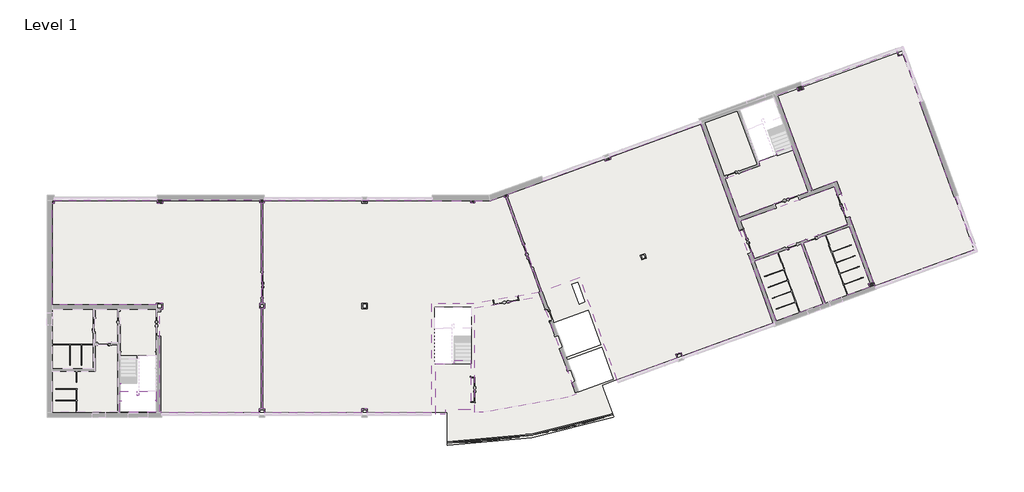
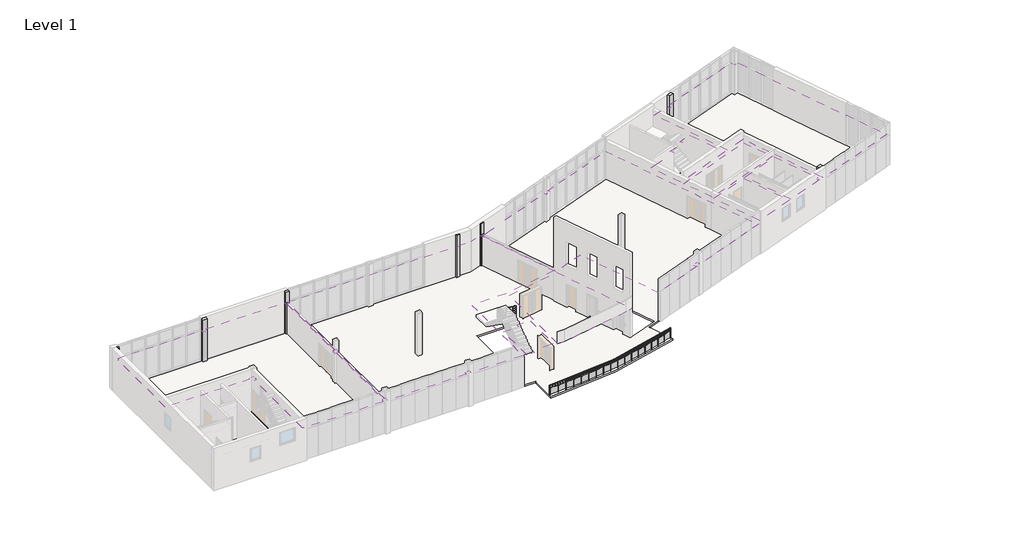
# One storey, part 7 of 12: 10 coverings, 7 columns, 3 proxies, 2 slabs, 1 railing.
"""IFC4 building model written with IfcOpenShell, lengths in millimetres."""

from ifc_helpers import new_model, si_unit, point, frame, frame_2d, origin, place, context, project, spatial, polyline, circle_curve, ellipse_curve, trimmed, segment, composite_curve, outline, extrude, faceted_brep, transform, mapped, element, save
from ifc_brep_helpers import plane_surface, cylinder_surface, revolved_surface, advanced_brep
from components import support_metal_circular1_support_metal_circular_016e83f0

model = new_model("IFC4")

# Units and contexts
model_context = context("Model", 3, world=origin())
ifc_project = project(units=[si_unit("LENGTHUNIT", "METRE", prefix="MILLI")], contexts=[model_context])

# Site, building, storey
site = spatial("IfcSite", under=ifc_project)
building = spatial("IfcBuilding", under=site)
storey = spatial("IfcBuildingStorey", under=building, Name="Level 1", Elevation=3900.0)

# Proxies
placement = place(None, origin())
support_metal_circular1_support_metal_circular_shape = support_metal_circular1_support_metal_circular_016e83f0(model_context)
element("IfcBuildingElementProxy", 1, Name="Support - Metal - Circular1 : Support - Metal - Circular", ObjectType="Support - Metal - Circular1 : Support - Metal - Circular", at=placement, inside=storey, context=model_context, shape_type="MappedRepresentation", body=[
    mapped(support_metal_circular1_support_metal_circular_shape, transform((5322.6000025, 2334.2312733, 6353.300689), x_axis=(0.0, 1.0, 0.0), y_axis=(-1.0, 0.0, 0.0), z_axis=(0.0, 0.0, 1.0))),
])
element("IfcBuildingElementProxy", 2, Name="Support - Metal - Circular1 : Support - Metal - Circular", ObjectType="Support - Metal - Circular1 : Support - Metal - Circular", at=placement, inside=storey, context=model_context, shape_type="MappedRepresentation", body=[
    mapped(support_metal_circular1_support_metal_circular_shape, transform((5322.6000025, 1100.0, 6732.1192282), x_axis=(0.0, 1.0, 0.0), y_axis=(-1.0, 0.0, 0.0), z_axis=(0.0, 0.0, 1.0))),
])
element("IfcBuildingElementProxy", 3, Name="Support - Metal - Circular1 : Support - Metal - Circular", ObjectType="Support - Metal - Circular1 : Support - Metal - Circular", at=placement, inside=storey, context=model_context, shape_type="MappedRepresentation", body=[
    mapped(support_metal_circular1_support_metal_circular_shape, transform((7761.8000024, 1150.0, 6732.1192282), x_axis=(0.0, -1.0, 0.0), y_axis=(1.0, 0.0, 0.0), z_axis=(0.0, 0.0, 1.0))),
])

# Columns
element("IfcColumn", 4, ObjectType="Columns_Rectangular : 300x300mm", at=placement, inside=storey, context=model_context, shape_type="SweptSolid", body=[
    extrude(outline(polyline([(562.2000028, 15173.2000005), (433.0000024, 15173.2000005), (433.0000025, 15351.4000013), (562.2000028, 15351.4000013), (562.2000028, 15173.2000005)])), frame((0.0, 0.0, 3900.0), z_axis=(0.0, 0.0, 1.0), x_axis=(1.0, 0.0, 0.0)), (0.0, 0.0, 1.0), 3900.0),
])
element("IfcColumn", 5, ObjectType="Columns_Rectangular : 300x300mm", at=placement, inside=storey, context=model_context, shape_type="Brep", body=[
    faceted_brep([(32610.0635714, 15583.1099494, 7800.0), (32891.9713576, 15685.7159924, 7800.0), (32844.7041738, 15815.5815126, 7800.0), (32562.7963876, 15712.9754696, 7800.0), (32844.7041738, 15815.5815126, 3900.0), (32891.9713576, 15685.7159924, 3900.0), (32807.3990217, 15654.9341795, 3900.0), (32694.6359072, 15613.8917623, 3900.0), (32610.0635714, 15583.1099494, 3900.0), (32562.7963876, 15712.9754696, 3900.0)], [[[0, 1, 2, 3]], [[4, 5, 6, 7, 8, 9]], [[8, 0, 3, 9]], [[1, 0, 8, 7, 6, 5]], [[1, 5, 4, 2]], [[3, 2, 4, 9]]]),
])
element("IfcColumn", 6, ObjectType="Columns_Rectangular : 300x300mm", at=placement, inside=storey, context=model_context, shape_type="SweptSolid", body=[
    extrude(outline(polyline([(30512.2000025, 15213.2000005), (30212.2000025, 15213.2000005), (30212.2000025, 15351.4000004), (30512.2000025, 15351.4000004), (30512.2000025, 15213.2000005)])), frame((0.0, 0.0, 3900.0), z_axis=(0.0, 0.0, 1.0), x_axis=(1.0, 0.0, 0.0)), (0.0, 0.0, 1.0), 3900.0),
])
element("IfcColumn", 7, ObjectType="Columns_Rectangular : 300x300mm", at=placement, inside=storey, context=model_context, shape_type="Brep", body=[
    faceted_brep([(15212.2000024, 15213.2000005, 7800.0), (15512.2000024, 15213.2000005, 7800.0), (15512.2000024, 15413.4000007, 7800.0), (15212.2000024, 15413.4000007, 7800.0), (15512.2000024, 15213.2000005, 3900.0), (15422.2000024, 15213.2000005, 3900.0), (15302.2000024, 15213.2000005, 3900.0), (15212.2000024, 15213.2000005, 3900.0), (15212.2000024, 15413.4000007, 3900.0), (15512.2000024, 15413.4000007, 3900.0)], [[[0, 1, 2, 3]], [[4, 5, 6, 7, 8, 9]], [[7, 0, 3, 8]], [[1, 0, 7, 6, 5, 4]], [[1, 4, 9, 2]], [[3, 2, 9, 8]]]),
])
element("IfcColumn", 8, ObjectType="Columns_Rectangular : 400x400mm", at=placement, inside=storey, context=model_context, shape_type="SweptSolid", body=[
    extrude(outline(polyline([(53911.2024396, 23282.8815641), (53535.3253912, 23146.0735068), (53441.3724579, 23404.2070696), (53817.2495062, 23541.015127), (53911.2024396, 23282.8815641)])), frame((0.0, 0.0, 3900.0), z_axis=(0.0, 0.0, 1.0), x_axis=(1.0, 0.0, 0.0)), (0.0, 0.0, 1.0), 3900.0),
])
element("IfcColumn", 9, ObjectType="Columns_Rectangular : 400x400mm", at=placement, inside=storey, context=model_context, shape_type="SweptSolid", body=[
    extrude(outline(polyline([(8287.2000028, 15163.2000005), (7887.2000028, 15163.2000005), (7887.2000028, 15413.4000008), (8287.2000028, 15413.4000008), (8287.2000028, 15163.2000005)])), frame((0.0, 0.0, 3900.0), z_axis=(0.0, 0.0, 1.0), x_axis=(1.0, 0.0, 0.0)), (0.0, 0.0, 1.0), 3900.0),
])
element("IfcColumn", 10, ObjectType="Columns_Rectangular : 400x400mm", at=placement, inside=storey, context=model_context, shape_type="Brep", body=[
    faceted_brep([(58904.6965317, 9563.3693005, 7800.0), (58528.8194834, 9426.5612432, 7800.0), (58614.3929232, 9191.4501495, 7800.0), (58990.2699716, 9328.2582068, 7800.0), (58614.3929232, 9191.4501495, 3900.0), (58528.8194834, 9426.5612432, 3900.0), (58646.2810605, 9469.3137609, 3900.0), (58881.2042157, 9554.8187967, 3900.0), (58904.6965317, 9563.3693005, 3900.0), (58990.2699716, 9328.2582068, 3900.0)], [[[0, 1, 2, 3]], [[4, 5, 6, 7, 8, 9]], [[1, 0, 8, 7, 6, 5]], [[1, 5, 4, 2]], [[8, 0, 3, 9]], [[3, 2, 4, 9]]]),
])

# Coverings
element("IfcCovering", 11, ObjectType="24\" x 24\"_Grid", at=placement, inside=storey, context=model_context, shape_type="SweptSolid", body=[
    extrude(outline(polyline([(15537.2000025, 7688.2000003), (15537.2000025, 8038.2000003), (15422.2000024, 8038.2000003), (15422.2000024, 15213.2000005), (15512.2000024, 15213.2000005), (15512.2000024, 15376.4000013), (27487.2000028, 15376.4000013), (27487.2000028, 15351.4000005), (30212.2000025, 15351.4000004), (30212.2000025, 15213.2000005), (30512.2000025, 15213.2000005), (30512.2000025, 15351.4000004), (31569.3759506, 15351.4000004), (32562.7963876, 15712.9754696), (32610.0635714, 15583.1099494), (32694.6359072, 15613.8917623), (35158.2741812, 8845.1012344), (30440.3278369, 8013.2000005), (27412.2000031, 8013.2000004), (27412.2000029, 269.9999995), (22862.2000028, 269.9999995), (22862.2000028, 538.199999), (22462.2000028, 538.199999), (22462.2000028, 269.9999995), (15562.2000028, 269.9999995), (15562.2000028, 538.199999), (15422.2000024, 538.199999), (15422.2000024, 7688.2000003), (15537.2000025, 7688.2000003)]), holes=[polyline([(22882.3447354, 7663.2000003), (22882.3447354, 8063.2000003), (22462.2000024, 8063.2000003), (22462.2000024, 7663.2000003), (22882.3447354, 7663.2000003)])]), frame((0.0, 0.0, 6700.0), z_axis=(0.0, 0.0, 1.0), x_axis=(1.0, 0.0, 0.0)), (0.0, 0.0, 1.0), 52.0),
])
element("IfcCovering", 12, ObjectType="24\" x 24\"_Grid", at=placement, inside=storey, context=model_context, shape_type="SweptSolid", body=[
    extrude(outline(polyline([(37985.6557273, 9877.5855238), (35269.9440535, 8889.1473098), (32807.3990217, 15654.9341795), (32891.9713576, 15685.7159924), (32844.7041738, 15815.5815126), (35405.3665657, 16747.5864031), (35396.8160621, 16771.0787187), (39742.8264311, 18352.8971307), (39807.2836461, 18176.0793824), (40183.2076743, 18312.9045389), (40118.8394836, 18489.7546895), (46579.1582494, 20841.1184239), (51752.691745, 6626.9519648), (45292.3729792, 4275.5882301), (45193.8027741, 4546.4076429), (44817.7897216, 4409.5500841), (44916.3599267, 4138.7306713), (40640.8265039, 2582.5637698), (37985.6557273, 9877.5855238)]), holes=[polyline([(42724.7984316, 11256.6346278), (42605.0913814, 11585.5270451), (42276.1989642, 11465.8199949), (42395.9060144, 11136.9275777), (42724.7984316, 11256.6346278)])]), frame((0.0, 0.0, 6500.0), z_axis=(0.0, 0.0, 1.0), x_axis=(1.0, 0.0, 0.0)), (0.0, 0.0, 1.0), 52.0),
])
element("IfcCovering", 13, ObjectType="24\" x 24\"_Grid", at=placement, inside=storey, context=model_context, shape_type="SweptSolid", body=[
    extrude(outline(polyline([(61005.9307492, 25756.8181916), (62237.203265, 22373.9247568), (62178.0026297, 22352.3774878), (64639.3163891, 15589.9735111), (64698.5170243, 15611.5207802), (66071.7278996, 11838.654908), (59011.8172406, 9269.0575717), (58904.6965317, 9563.3693005), (58881.2042157, 9554.8187967), (56272.4455729, 16722.3242618), (54519.3077353, 16084.2342724), (52040.6193527, 22894.3746339), (53441.3724579, 23404.2070696), (53535.3253912, 23146.0735068), (53911.2024396, 23282.8815641), (53817.0784962, 23541.4849732), (60535.8807344, 25986.9289976), (60664.8223283, 25632.6648797), (61005.9307492, 25756.8181916)])), frame((0.0, 0.0, 6700.0), z_axis=(0.0, 0.0, 1.0), x_axis=(1.0, 0.0, 0.0)), (0.0, 0.0, 1.0), 52.0),
])
element("IfcCovering", 14, ObjectType="24\" x 24\"_Grid", at=placement, inside=storey, context=model_context, shape_type="SweptSolid", body=[
    extrude(outline(polyline([(50396.1862368, 11231.0615383), (49421.3262224, 13909.4674153), (56093.1438296, 16337.8104326), (57068.003844, 13659.4045556), (50396.1862368, 11231.0615383)])), frame((0.0, 0.0, 6700.0), z_axis=(0.0, 0.0, 1.0), x_axis=(1.0, 0.0, 0.0)), (0.0, 0.0, 1.0), 52.0),
])
element("IfcCovering", 15, ObjectType="24\" x 24\"_Grid", at=placement, inside=storey, context=model_context, shape_type="SweptSolid", body=[
    extrude(outline(polyline([(28408.3766929, 146.0000008), (27712.2000028, 146.0000009), (27712.200003, 3763.2000006), (29052.2000029, 3763.2000006), (29052.2000029, 4013.2000006), (30212.2000024, 4013.2000006), (30212.2000023, 470.0000006), (28408.3766929, 470.0000006), (28408.3766929, 146.0000008)])), frame((0.0, 0.0, 6700.0), z_axis=(0.0, 0.0, 1.0), x_axis=(1.0, 0.0, 0.0)), (0.0, 0.0, 1.0), 52.0),
])
element("IfcCovering", 16, ObjectType="24\" x 24\"_Grid", at=placement, inside=storey, context=model_context, shape_type="SweptSolid", body=[
    extrude(outline(composite_curve([segment(polyline([(35172.4630874, 8542.9751379), (37714.7826146, 1558.0096457), (37139.232462, 1348.5265219)]), True, "CONTINUOUS"), segment(trimmed(circle_curve(frame_2d((30685.6603889, 20363.2000005)), 20080.0), [point((37139.232462, 1348.5265219))], [point((31124.6877547, 288.0000022))], False, "CARTESIAN"), True, "CONTINUOUS"), segment(polyline([(31124.6877547, 288.0000022), (30512.2000023, 288.0000022), (30512.2000024, 7721.2450188), (35172.4630874, 8542.9751379)]), True, "CONTINUOUS")], self_intersect=False)), frame((0.0, 0.0, 6700.0), z_axis=(0.0, 0.0, 1.0), x_axis=(1.0, 0.0, 0.0)), (0.0, 0.0, 1.0), 52.0),
])
element("IfcCovering", 17, ObjectType="24\" x 24\"_Grid", at=placement, inside=storey, context=model_context, shape_type="SweptSolid", body=[
    extrude(outline(polyline([(48319.963718, 16935.4360269), (50804.9943671, 17839.9132141), (50697.0762506, 18136.4158024), (52050.0788572, 18628.8684779), (51964.5738214, 18863.791633), (53045.2203355, 19257.1147979), (54237.3999491, 15981.6282294), (49318.7201794, 14191.3752015), (48319.963718, 16935.4360269)])), frame((0.0, 0.0, 6700.0), z_axis=(0.0, 0.0, 1.0), x_axis=(1.0, 0.0, 0.0)), (0.0, 0.0, 1.0), 52.0),
])
element("IfcCovering", 18, ObjectType="24\" x 24\"_Grid", at=placement, inside=storey, context=model_context, shape_type="SweptSolid", body=[
    extrude(outline(polyline([(15187.2000024, 8038.2000003), (15187.2000024, 7688.2000003), (15302.2000024, 7688.2000003), (15302.2000024, 538.199999), (15162.2000029, 538.199999), (15162.2000029, 269.9999995), (8187.2000027, 269.9999995), (8187.2000027, 313.0000002), (8087.2000022, 313.0000002), (8087.2000022, 7638.2000005), (8287.2000028, 7638.2000005), (8287.2000028, 8063.2000005), (7837.2000024, 8063.2000005), (7837.2000024, 7938.2000004), (433.0000002, 7938.2000004), (433.0000014, 15173.2000005), (562.2000028, 15173.2000005), (562.2000028, 15388.9000009), (7887.2000025, 15388.9000009), (7887.2000025, 15163.2000005), (8287.2000028, 15163.2000005), (8287.2000028, 15413.4000008), (15212.2000024, 15413.4000007), (15212.2000024, 15213.2000005), (15302.2000024, 15213.2000005), (15302.2000024, 8038.2000003), (15187.2000024, 8038.2000003)])), frame((0.0, 0.0, 6700.0), z_axis=(0.0, 0.0, 1.0), x_axis=(1.0, 0.0, 0.0)), (0.0, 0.0, 1.0), 52.0),
])
element("IfcCovering", 19, ObjectType="Plain", at=placement, inside=storey, context=model_context, shape_type="SweptSolid", body=[
    extrude(outline(polyline([(58646.2810605, 9469.3137609), (58528.8194834, 9426.5612432), (58614.3929232, 9191.4501495), (55449.5081762, 8039.5263068), (53888.7334543, 12327.7196125), (57171.0797785, 13522.3959729), (58646.2810605, 9469.3137609)])), frame((0.0, 0.0, 6700.0), z_axis=(0.0, 0.0, 1.0), x_axis=(1.0, 0.0, 0.0)), (0.0, 0.0, 1.0), 57.0),
])
element("IfcCovering", 20, ObjectType="Plain", at=placement, inside=storey, context=model_context, shape_type="SweptSolid", body=[
    extrude(outline(polyline([(55295.3985864, 7983.4350033), (51966.0676312, 6771.6576357), (50405.2929092, 11059.8509413), (53734.6238645, 12271.628309), (55295.3985864, 7983.4350033)])), frame((0.0, 0.0, 6700.0), z_axis=(0.0, 0.0, 1.0), x_axis=(1.0, 0.0, 0.0)), (0.0, 0.0, 1.0), 57.0),
])

# Railing
element("IfcRailing", 21, ObjectType="Glass_Panel-Bottom_Fill", at=placement, inside=storey, context=model_context, shape_type="SolidModel", body=[
    advanced_brep(
    [(40308.8689844, 181.3840931, 4800.0), (28548.6661194, -1809.3617636, 4800.0), (28549.739034, -1889.3545686, 4800.0), (40334.1834987, 105.4948622, 4800.0)],
    [
        (0, 1, circle_curve(frame((28028.1685328, 36997.1374158, 4800.0), z_axis=(0.0, 0.0, -1.0), x_axis=(0.013411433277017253, -0.9999100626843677, 0.0)), 38809.9896457)),
        (1, 2, ellipse_curve(frame((28549.2025767, -1849.3581661, 4800.0), z_axis=(0.9999100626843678, 0.013411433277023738, 0.0), x_axis=(0.013411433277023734, -0.9999100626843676, 0.0)), 40.0, 30.0)),
        (2, 3, circle_curve(frame((28028.1685328, 36997.1374158, 4800.0), z_axis=(0.0, 0.0, 1.0), x_axis=(0.013411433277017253, -0.9999100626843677, 0.0)), 38889.9896457)),
        (3, 0, ellipse_curve(frame((40321.5262416, 143.4394777, 4800.0), z_axis=(-0.9486153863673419, -0.3164314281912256, 0.0), x_axis=(0.3164314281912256, -0.9486153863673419, 0.0)), 40.0, 30.0)),
        (2, 1, ellipse_curve(frame((28549.2025767, -1849.3581661, 4800.0), z_axis=(0.9999100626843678, 0.013411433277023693, 0.0), x_axis=(0.013411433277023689, -0.9999100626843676, 0.0)), 40.0, 30.0)),
        (0, 3, ellipse_curve(frame((40321.5262416, 143.4394777, 4800.0), z_axis=(-0.9486153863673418, -0.31643142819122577, 0.0), x_axis=(0.31643142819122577, -0.9486153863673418, 0.0)), 40.0, 30.0)),
    ],
    [
        revolved_surface(trimmed(ellipse_curve(frame((28549.2025767, -1849.3581661, 4800.0), z_axis=(-0.9999100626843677, -0.013411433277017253, 0.0), x_axis=(0.013411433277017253, -0.9999100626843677, 0.0)), 40.0, 30.0), [point((28549.739034, -1889.3545686, 4800.0))], [point((28548.6661194, -1809.3617636, 4800.0))], True, "CARTESIAN"), (28028.1685328, 36997.1374158, 4800.0), (0.0, 0.0, 1.0)),
        revolved_surface(trimmed(ellipse_curve(frame((28549.2025767, -1849.3581661, 4800.0), z_axis=(-0.9999100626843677, -0.013411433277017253, 0.0), x_axis=(0.013411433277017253, -0.9999100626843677, 0.0)), 40.0, 30.0), [point((28548.6661194, -1809.3617636, 4800.0))], [point((28549.739034, -1889.3545686, 4800.0))], True, "CARTESIAN"), (28028.1685328, 36997.1374158, 4800.0), (0.0, 0.0, 1.0)),
        plane_surface(frame((28549.2025767, -1849.3581661, 4800.0), z_axis=(-0.9999100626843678, -0.013411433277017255, 0.0), x_axis=(0.013411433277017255, -0.9999100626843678, 0.0))),
        plane_surface(frame((40321.5262416, 143.4394777, 4800.0), z_axis=(0.9486153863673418, 0.3164314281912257, 0.0), x_axis=(0.3164314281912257, -0.9486153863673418, 0.0))),
    ],
    [
        (0, [[1, 2, 3, 4]]),
        (1, [[-3, 5, -1, 6]]),
        (2, [[-5, -2]]),
        (3, [[-4, -6]]),
    ],
),
    extrude(outline(composite_curve([segment(trimmed(circle_curve(frame_2d((28028.1685328, 36997.1374158)), 38859.3804108), [point((40324.4977748, 134.5312533))], [point((28549.3285203, -1858.7480867))], False, "CARTESIAN"), True, "CONTINUOUS"), segment(polyline([(28549.3285203, -1858.7480867), (28549.0602917, -1838.7498855)]), True, "CONTINUOUS"), segment(trimmed(circle_curve(frame_2d((28028.1685328, 36997.1374158)), 38839.3804108), [point((28549.0602917, -1838.7498855))], [point((40318.1691462, 153.5035611))], True, "CARTESIAN"), True, "CONTINUOUS"), segment(polyline([(40318.1691462, 153.5035611), (40324.4977748, 134.5312533)]), True, "CONTINUOUS")], self_intersect=False)), frame((0.0, 0.0, 4680.0), z_axis=(0.0, 0.0, 1.0), x_axis=(1.0, 0.0, 0.0)), (0.0, 0.0, 1.0), 20.0),
    extrude(outline(composite_curve([segment(trimmed(circle_curve(frame_2d((28028.1685328, 36997.1374158)), 38859.3804108), [point((40324.4977748, 134.5312533))], [point((28549.3285203, -1858.7480867))], False, "CARTESIAN"), True, "CONTINUOUS"), segment(polyline([(28549.3285203, -1858.7480867), (28549.0602917, -1838.7498855)]), True, "CONTINUOUS"), segment(trimmed(circle_curve(frame_2d((28028.1685328, 36997.1374158)), 38839.3804108), [point((28549.0602917, -1838.7498855))], [point((40318.1691462, 153.5035611))], True, "CARTESIAN"), True, "CONTINUOUS"), segment(polyline([(40318.1691462, 153.5035611), (40324.4977748, 134.5312533)]), True, "CONTINUOUS")], self_intersect=False)), frame((0.0, 0.0, 4580.0), z_axis=(0.0, 0.0, 1.0), x_axis=(1.0, 0.0, 0.0)), (0.0, 0.0, 1.0), 20.0),
    extrude(outline(polyline([(40266.4314409, 152.0906486), (40277.8190754, 155.8750613), (40293.5874619, 108.4265841), (40282.1998274, 104.6421714), (40266.4314409, 152.0906486)])), frame((0.0, 0.0, 3900.0), z_axis=(0.0, 0.0, 1.0), x_axis=(1.0, 0.0, 0.0)), (0.0, 0.0, 1.0), 869.8465326),
    extrude(outline(polyline([(39614.7863131, -87.6460581), (40281.0268462, 127.1178871), (40282.5608743, 122.3590262), (39616.3203413, -92.404919), (39614.7863131, -87.6460581)])), frame((0.0, 0.0, 4000.0), z_axis=(0.0, 0.0, 1.0), x_axis=(1.0, 0.0, 0.0)), (0.0, 0.0, 1.0), 580.0),
    extrude(outline(polyline([(39600.5954794, -62.4292958), (39612.0494504, -58.8506721), (39626.9603824, -106.5755515), (39615.5064114, -110.1541752), (39600.5954794, -62.4292958)])), frame((0.0, 0.0, 3900.0), z_axis=(0.0, 0.0, 1.0), x_axis=(1.0, 0.0, 0.0)), (0.0, 0.0, 1.0), 869.8465326),
    extrude(outline(polyline([(38944.7367146, -290.3861815), (39614.7385729, -87.6609738), (39616.1866101, -92.4467013), (38946.1847518, -295.1719091), (38944.7367146, -290.3861815)])), frame((0.0, 0.0, 4000.0), z_axis=(0.0, 0.0, 1.0), x_axis=(1.0, 0.0, 0.0)), (0.0, 0.0, 1.0), 580.0),
    extrude(outline(polyline([(38931.0025232, -264.9178317), (38942.5191122, -261.5461589), (38956.5677488, -309.5319464), (38945.0511598, -312.9036192), (38931.0025232, -264.9178317)])), frame((0.0, 0.0, 3900.0), z_axis=(0.0, 0.0, 1.0), x_axis=(1.0, 0.0, 0.0)), (0.0, 0.0, 1.0), 869.8465326),
    extrude(outline(polyline([(38271.1430463, -481.0208902), (38944.6887135, -290.4002347), (38946.0502896, -295.2112752), (38272.5046224, -485.8319306), (38271.1430463, -481.0208902)])), frame((0.0, 0.0, 4000.0), z_axis=(0.0, 0.0, 1.0), x_axis=(1.0, 0.0, 0.0)), (0.0, 0.0, 1.0), 580.0),
    extrude(outline(polyline([(38257.8699559, -455.309221), (38269.445424, -452.1455937), (38282.6272045, -500.3767109), (38271.0517364, -503.5403382), (38257.8699559, -455.309221)])), frame((0.0, 0.0, 3900.0), z_axis=(0.0, 0.0, 1.0), x_axis=(1.0, 0.0, 0.0)), (0.0, 0.0, 1.0), 869.8465326),
    extrude(outline(polyline([(37594.2239908, -659.4882942), (38271.0947997, -481.0340762), (38272.3694727, -485.8688677), (37595.4986637, -664.3230857), (37594.2239908, -659.4882942)])), frame((0.0, 0.0, 4000.0), z_axis=(0.0, 0.0, 1.0), x_axis=(1.0, 0.0, 0.0)), (0.0, 0.0, 1.0), 580.0),
    extrude(outline(polyline([(37581.4163106, -633.5416531), (37593.0468998, -630.5870983), (37605.3575445, -679.0478869), (37593.7269553, -682.0024416), (37581.4163106, -633.5416531)])), frame((0.0, 0.0, 3900.0), z_axis=(0.0, 0.0, 1.0), x_axis=(1.0, 0.0, 0.0)), (0.0, 0.0, 1.0), 869.8465326),
    extrude(outline(polyline([(36914.1993101, -825.7304543), (37594.1755144, -659.5006088), (37595.3628705, -664.3575817), (36915.3866661, -830.5874272), (36914.1993101, -825.7304543)])), frame((0.0, 0.0, 4000.0), z_axis=(0.0, 0.0, 1.0), x_axis=(1.0, 0.0, 0.0)), (0.0, 0.0, 1.0), 580.0),
    extrude(outline(polyline([(36901.8611981, -799.5572647), (36913.5431326, -796.8127417), (36924.9786449, -845.4874688), (36913.2967104, -848.2319918), (36901.8611981, -799.5572647)])), frame((0.0, 0.0, 3900.0), z_axis=(0.0, 0.0, 1.0), x_axis=(1.0, 0.0, 0.0)), (0.0, 0.0, 1.0), 869.8465326),
    extrude(outline(polyline([(36231.2897746, -979.6933996), (36914.1506197, -825.7418934), (36915.2502733, -830.6194709), (36232.3894282, -984.5709771), (36231.2897746, -979.6933996)])), frame((0.0, 0.0, 4000.0), z_axis=(0.0, 0.0, 1.0), x_axis=(1.0, 0.0, 0.0)), (0.0, 0.0, 1.0), 580.0),
    extrude(outline(polyline([(36219.4252364, -953.3021588), (36231.1547236, -950.7685586), (36241.7113911, -999.6414219), (36229.9819039, -1002.1750221), (36219.4252364, -953.3021588)])), frame((0.0, 0.0, 3900.0), z_axis=(0.0, 0.0, 1.0), x_axis=(1.0, 0.0, 0.0)), (0.0, 0.0, 1.0), 869.8465326),
    extrude(outline(polyline([(35545.7170914, -1121.3271461), (36231.2408861, -979.7039597), (36232.2524803, -984.6005582), (35546.7286856, -1126.2237447), (35545.7170914, -1121.3271461)])), frame((0.0, 0.0, 4000.0), z_axis=(0.0, 0.0, 1.0), x_axis=(1.0, 0.0, 0.0)), (0.0, 0.0, 1.0), 580.0),
    extrude(outline(polyline([(35534.3299789, -1094.726422), (35546.1032108, -1092.4045671), (35555.7776061, -1141.4597001), (35544.0043741, -1143.781555), (35534.3299789, -1094.726422)])), frame((0.0, 0.0, 3900.0), z_axis=(0.0, 0.0, 1.0), x_axis=(1.0, 0.0, 0.0)), (0.0, 0.0, 1.0), 869.8465326),
    extrude(outline(polyline([(34857.703832, -1250.5857124), (35545.6680206, -1121.3368236), (35546.5912269, -1126.2508536), (34858.6270383, -1255.4997423), (34857.703832, -1250.5857124)])), frame((0.0, 0.0, 4000.0), z_axis=(0.0, 0.0, 1.0), x_axis=(1.0, 0.0, 0.0)), (0.0, 0.0, 1.0), 580.0),
    extrude(outline(polyline([(34846.7978419, -1223.7841408), (34858.6109963, -1221.674785), (34867.3999787, -1270.8962619), (34855.5868242, -1273.0056177), (34846.7978419, -1223.7841408)])), frame((0.0, 0.0, 3900.0), z_axis=(0.0, 0.0, 1.0), x_axis=(1.0, 0.0, 0.0)), (0.0, 0.0, 1.0), 869.8465326),
    extrude(outline(polyline([(34167.4733602, -1367.4271344), (34857.6545947, -1250.5945042), (34858.4891135, -1255.5243701), (34168.307879, -1372.3570004), (34167.4733602, -1367.4271344)])), frame((0.0, 0.0, 4000.0), z_axis=(0.0, 0.0, 1.0), x_axis=(1.0, 0.0, 0.0)), (0.0, 0.0, 1.0), 580.0),
    extrude(outline(polyline([(34157.0520331, -1340.4334166), (34168.901275, -1338.5372447), (34176.8019911, -1387.9090857), (34164.9527492, -1389.8052576), (34157.0520331, -1340.4334166)])), frame((0.0, 0.0, 3900.0), z_axis=(0.0, 0.0, 1.0), x_axis=(1.0, 0.0, 0.0)), (0.0, 0.0, 1.0), 869.8465326),
    extrude(outline(polyline([(33475.2497597, -1471.8134797), (34167.4239725, -1367.4350377), (34168.1695328, -1372.3791392), (33475.99532, -1476.7575812), (33475.2497597, -1471.8134797)])), frame((0.0, 0.0, 4000.0), z_axis=(0.0, 0.0, 1.0), x_axis=(1.0, 0.0, 0.0)), (0.0, 0.0, 1.0), 580.0),
    extrude(outline(polyline([(33465.3164791, -1444.6363791), (33477.1979614, -1442.9540068), (33484.2078462, -1492.4601833), (33472.3263639, -1494.1425556), (33465.3164791, -1444.6363791)])), frame((0.0, 0.0, 3900.0), z_axis=(0.0, 0.0, 1.0), x_axis=(1.0, 0.0, 0.0)), (0.0, 0.0, 1.0), 869.8465326),
    extrude(outline(polyline([(32781.2577613, -1563.7108591), (33475.2002376, -1471.8204918), (33475.8565974, -1476.7772238), (32781.9141211, -1568.667591), (32781.2577613, -1563.7108591)])), frame((0.0, 0.0, 4000.0), z_axis=(0.0, 0.0, 1.0), x_axis=(1.0, 0.0, 0.0)), (0.0, 0.0, 1.0), 580.0),
    extrude(outline(polyline([(32771.8157519, -1536.3591988), (32783.7256175, -1534.8911722), (32789.8423953, -1584.515612), (32777.9325297, -1585.9836387), (32771.8157519, -1536.3591988)])), frame((0.0, 0.0, 3900.0), z_axis=(0.0, 0.0, 1.0), x_axis=(1.0, 0.0, 0.0)), (0.0, 0.0, 1.0), 869.8465326),
    extrude(outline(polyline([(32085.72267, -1643.089438), (32781.208121, -1563.7169778), (32781.7750671, -1568.684731), (32086.2896161, -1648.0571912), (32085.72267, -1643.089438)])), frame((0.0, 0.0, 4000.0), z_axis=(0.0, 0.0, 1.0), x_axis=(1.0, 0.0, 0.0)), (0.0, 0.0, 1.0), 580.0),
    extrude(outline(polyline([(32076.7749971, -1615.5720979), (32088.7093793, -1614.3188935), (32093.9310643, -1664.045486), (32081.9966821, -1665.2986904), (32076.7749971, -1615.5720979)])), frame((0.0, 0.0, 3900.0), z_axis=(0.0, 0.0, 1.0), x_axis=(1.0, 0.0, 0.0)), (0.0, 0.0, 1.0), 869.8465326),
    extrude(outline(polyline([(31388.8702915, -1709.9234463), (32085.6729274, -1643.0946614), (32086.1502759, -1648.0718231), (31389.3476399, -1714.900608), (31388.8702915, -1709.9234463)])), frame((0.0, 0.0, 4000.0), z_axis=(0.0, 0.0, 1.0), x_axis=(1.0, 0.0, 0.0)), (0.0, 0.0, 1.0), 580.0),
    extrude(outline(polyline([(31380.4198601, -1682.2493597), (31392.3748844, -1681.2113844), (31396.6997813, -1731.0239859), (31384.7447569, -1732.0619612), (31380.4198601, -1682.2493597)])), frame((0.0, 0.0, 3900.0), z_axis=(0.0, 0.0, 1.0), x_axis=(1.0, 0.0, 0.0)), (0.0, 0.0, 1.0), 869.8465326),
    extrude(outline(polyline([(30690.9268593, -1764.1911861), (31388.8204629, -1709.9277726), (31389.2080587, -1714.9127269), (30691.3144551, -1769.1761404), (30690.9268593, -1764.1911861)])), frame((0.0, 0.0, 4000.0), z_axis=(0.0, 0.0, 1.0), x_axis=(1.0, 0.0, 0.0)), (0.0, 0.0, 1.0), 580.0),
    extrude(outline(polyline([(30682.9764127, -1736.3693375), (30694.948198, -1735.5469284), (30698.3749028, -1785.4293671), (30686.4031175, -1786.2517763), (30682.9764127, -1736.3693375)])), frame((0.0, 0.0, 3900.0), z_axis=(0.0, 0.0, 1.0), x_axis=(1.0, 0.0, 0.0)), (0.0, 0.0, 1.0), 869.8465326),
    extrude(outline(polyline([(29992.1189611, -1805.8750395), (30690.8769608, -1764.1946139), (30691.1746782, -1769.1857425), (29992.4166785, -1810.8661681), (29992.1189611, -1805.8750395)])), frame((0.0, 0.0, 4000.0), z_axis=(0.0, 0.0, 1.0), x_axis=(1.0, 0.0, 0.0)), (0.0, 0.0, 1.0), 580.0),
    extrude(outline(polyline([(29984.6710806, -1777.9144613), (29996.6557402, -1777.3078852), (29999.1831403, -1827.2439669), (29987.1984807, -1827.8505429), (29984.6710806, -1777.9144613)])), frame((0.0, 0.0, 3900.0), z_axis=(0.0, 0.0, 1.0), x_axis=(1.0, 0.0, 0.0)), (0.0, 0.0, 1.0), 869.8465326),
    extrude(outline(polyline([(29292.6734654, -1834.9614737), (29992.069009, -1805.8775677), (29992.2767512, -1810.8732502), (29292.8812076, -1839.9571562), (29292.6734654, -1834.9614737)])), frame((0.0, 0.0, 4000.0), z_axis=(0.0, 0.0, 1.0), x_axis=(1.0, 0.0, 0.0)), (0.0, 0.0, 1.0), 580.0),
    extrude(outline(polyline([(29285.7305689, -1806.8712433), (29297.7242119, -1806.4806973), (29299.3514869, -1856.45421), (29287.3578438, -1856.844756), (29285.7305689, -1806.8712433)])), frame((0.0, 0.0, 3900.0), z_axis=(0.0, 0.0, 1.0), x_axis=(1.0, 0.0, 0.0)), (0.0, 0.0, 1.0), 869.8465326),
    extrude(outline(polyline([(28592.8174475, -1851.4410459), (29292.6234759, -1834.9631015), (29292.7411755, -1839.961716), (28592.9351471, -1856.4396604), (28592.8174475, -1851.4410459)])), frame((0.0, 0.0, 4000.0), z_axis=(0.0, 0.0, 1.0), x_axis=(1.0, 0.0, 0.0)), (0.0, 0.0, 1.0), 580.0),
    extrude(outline(polyline([(28586.3817889, -1823.2302827), (28598.3805217, -1823.0558936), (28599.1071432, -1873.0506135), (28587.1084105, -1873.2250027), (28586.3817889, -1823.2302827)])), frame((0.0, 0.0, 3900.0), z_axis=(0.0, 0.0, 1.0), x_axis=(1.0, 0.0, 0.0)), (0.0, 0.0, 1.0), 869.8465326),
    extrude(outline(polyline([(40305.8348586, 165.2020895), (40317.2184387, 168.9986806), (40333.0375683, 121.5670968), (40321.6539882, 117.7705057), (40305.8348586, 165.2020895)])), frame((0.0, 0.0, 3900.0), z_axis=(0.0, 0.0, 1.0), x_axis=(1.0, 0.0, 0.0)), (0.0, 0.0, 1.0), 869.8465326),
    extrude(outline(polyline([(28544.8581965, -1823.8051549), (28556.8571089, -1823.6436), (28557.5302544, -1873.6390686), (28545.5313419, -1873.8006235), (28544.8581965, -1823.8051549)])), frame((0.0, 0.0, 3900.0), z_axis=(0.0, 0.0, 1.0), x_axis=(1.0, 0.0, 0.0)), (0.0, 0.0, 1.0), 869.8465326),
])

# Slabs
element("IfcSlab", 22, ObjectType="8\"_Thickness", at=placement, inside=storey, context=model_context, shape_type="SolidModel", body=[
    faceted_brep([(6447.2000025, 1800.0, 5849.0), (5247.2000025, 1800.0, 5849.0), (5247.2000025, 1572.7280846, 5849.0), (5247.2000025, 300.0000001, 5849.0), (7837.2000024, 300.0000001, 5849.0), (7837.2000024, 1777.2719153, 5849.0), (7837.2000024, 1800.0, 5849.0), (6637.2000026, 1800.0, 5849.0), (6637.2000026, 1777.2719153, 5849.0), (6637.2000026, 1500.0, 5849.0), (6447.2000025, 1500.0, 5849.0), (6447.2000025, 1572.7280846, 5849.0), (6447.2000025, 1800.0, 5487.8435509), (6447.2000025, 1800.0, 5671.7272727), (6447.2000025, 1500.0, 5649.0), (6447.2000025, 1572.7280846, 5649.0), (5247.2000025, 1800.0, 5671.7272727), (5247.2000025, 1800.0, 5487.8435509), (5247.2000025, 1572.7280846, 5649.0), (5247.2000025, 300.0000001, 5649.0), (6637.2000026, 1800.0, 5665.1162782), (6637.2000026, 1777.2719153, 5649.0), (6637.2000026, 1500.0, 5649.0), (7837.2000024, 1777.2719153, 5649.0), (7837.2000024, 300.0000001, 5649.0), (7837.2000024, 1800.0, 5665.1162782)], [[[0, 1, 2, 3, 4, 5, 6, 7, 8, 9, 10, 11]], [[12, 13, 0, 11, 10, 14, 15]], [[1, 16, 17, 18, 19, 3, 2]], [[7, 20, 21, 22, 9, 8]], [[18, 15, 14, 22, 21, 23, 24, 19]], [[15, 18, 17, 12]], [[23, 21, 20, 25]], [[1, 0, 13, 12, 17, 16]], [[4, 3, 19, 24]], [[4, 24, 23, 25, 6, 5]], [[7, 6, 25, 20]], [[10, 9, 22, 14]]]),
    extrude(outline(polyline([(6447.2000025, 1800.0), (6447.2000025, 1500.0), (6637.2000026, 1500.0), (6637.2000026, 1800.0), (7837.2000024, 1800.0), (7837.2000024, 300.0000001), (5247.2000025, 300.0000001), (5247.2000025, 1800.0), (6447.2000025, 1800.0)])), frame((0.0, 0.0, 5849.0), z_axis=(0.0, 0.0, 1.0), x_axis=(1.0, 0.0, 0.0)), (0.0, 0.0, 1.0), 1.0),
])
element("IfcSlab", 23, ObjectType="Generic - 6\"", at=placement, inside=storey, context=model_context, shape_type="AdvancedBrep", body=[
    advanced_brep(
    [(39568.1602739, 2232.5839466, 3760.0), (39591.4176437, 2168.6848483, 3760.0), (39666.6620752, 1961.9524718, 3760.0), (40395.5382999, -40.6184973, 3760.0), (40371.8118375, -48.5324498, 3760.0), (28564.8790145, -2047.1892767, 3760.0), (28539.8766926, -2047.5251299, 3760.0), (28539.8766928, 158.0000005, 3760.0), (28539.8766928, 288.0000005, 3760.0), (27712.2000029, 288.0000005, 3760.0), (27412.2000029, 288.0000005, 3760.0), (408.0, 288.0, 3760.0), (408.0000025, 15318.4000008, 3760.0), (31575.1947409, 15318.4000004, 3760.0), (49365.7516644, 21794.2000413, 3760.0), (50697.0762506, 18136.4158024, 3760.0), (52050.0788572, 18628.8684779, 3760.0), (51964.5738214, 18863.791633, 3760.0), (53106.6762329, 19279.4829152, 3760.0), (51860.831131, 22702.4142012, 3760.0), (60882.0231289, 25986.1470129, 3760.0), (66023.0228145, 11861.366462, 3760.0), (40627.8297383, 2618.2720897, 3760.0), (40392.9065831, 2532.7670539, 3760.0), (38570.0121341, 7541.1283909, 3760.0), (36126.8113195, 6651.8760181, 3760.0), (37017.2607629, 4205.3862799, 3760.0), (39460.4615772, 5094.6386527, 3760.0), (39528.8656059, 4906.7001285, 3760.0), (37085.6647918, 4017.4477559, 3760.0), (37905.7561806, 1764.2651831, 3760.0), (40348.9569947, 2653.5175556, 3760.0), (38349.2678229, 8147.6184016, 3760.0), (37836.2376078, 9557.1573328, 3760.0), (37422.7728548, 9406.6684697, 3760.0), (37935.8030697, 7997.1295385, 3760.0), (29052.2000029, 4013.2000006, 3760.0), (30252.200003, 4013.2000006, 3760.0), (30252.200003, 7713.2000005, 3760.0), (30252.200003, 7757.8000004, 3760.0), (27712.2000031, 7757.8000004, 3760.0), (27667.6000031, 7757.8000004, 3760.0), (27667.6000031, 3763.2000006, 3760.0), (27712.200003, 3763.2000006, 3760.0), (29052.2000029, 3763.2000006, 3760.0), (5259.2000024, 4050.0, 3760.0), (5259.2000024, 345.4000001, 3760.0), (7841.8000023, 345.4000001, 3760.0), (7841.8000023, 4300.0, 3760.0), (6497.2000024, 4300.0, 3760.0), (6497.2000024, 4050.0, 3760.0), (40395.5382999, -40.6184973, 3900.0), (39666.6620752, 1961.9524718, 3900.0), (39591.4176437, 2168.6848483, 3900.0), (39568.1602739, 2232.5839466, 3900.0), (40392.9065831, 2532.7670539, 3900.0), (40627.8297383, 2618.2720897, 3900.0), (66023.0228145, 11861.366462, 3900.0), (60882.0231289, 25986.1470129, 3900.0), (51860.831131, 22702.4142012, 3900.0), (53106.6762329, 19279.4829152, 3900.0), (51964.5738214, 18863.791633, 3900.0), (52050.0788572, 18628.8684779, 3900.0), (50697.0762506, 18136.4158024, 3900.0), (49365.7516644, 21794.2000413, 3900.0), (31575.1947409, 15318.4000004, 3900.0), (408.0000025, 15318.4000008, 3900.0), (408.0, 288.0, 3900.0), (27412.2000029, 288.0000005, 3900.0), (27712.2000029, 288.0000005, 3900.0), (28539.8766928, 288.0000005, 3900.0), (28539.8766928, 158.0000005, 3900.0), (28539.8766926, -2047.5251299, 3900.0), (28564.8790145, -2047.1892767, 3900.0), (40371.8118375, -48.5324498, 3900.0), (36126.8113195, 6651.8760181, 3900.0), (38570.0121341, 7541.1283909, 3900.0), (39460.4615772, 5094.6386527, 3900.0), (37017.2607629, 4205.3862799, 3900.0), (37085.6647918, 4017.4477559, 3900.0), (39528.8656059, 4906.7001285, 3900.0), (40348.9569947, 2653.5175556, 3900.0), (37905.7561806, 1764.2651831, 3900.0), (30252.200003, 4013.2000006, 3900.0), (29052.2000029, 4013.2000006, 3900.0), (29052.2000029, 3763.2000006, 3900.0), (27712.200003, 3763.2000006, 3900.0), (27667.6000031, 3763.2000006, 3900.0), (27667.6000031, 7757.8000004, 3900.0), (27712.2000031, 7757.8000004, 3900.0), (30252.200003, 7757.8000004, 3900.0), (30252.200003, 7713.2000005, 3900.0), (5259.2000024, 345.4000001, 3900.0), (5259.2000024, 4050.0, 3900.0), (6497.2000024, 4050.0, 3900.0), (6497.2000024, 4300.0, 3900.0), (7841.8000023, 4300.0, 3900.0), (7841.8000023, 345.4000001, 3900.0), (37836.2376078, 9557.1573328, 3900.0), (38349.2678229, 8147.6184016, 3900.0), (37935.8030697, 7997.1295385, 3900.0), (37422.7728548, 9406.6684697, 3900.0)],
    [
        (0, 1),
        (1, 2),
        (2, 3),
        (3, 4, circle_curve(frame((28027.924496, 36998.4991929, 3760.0), z_axis=(0.0, 0.0, -1.0), x_axis=(1.0, 0.0, 0.0)), 39049.3804108)),
        (4, 5, circle_curve(frame((28027.924496, 36998.4991929, 3760.0), z_axis=(0.0, 0.0, -1.0), x_axis=(1.0, 0.0, 0.0)), 39049.3803822)),
        (5, 6, circle_curve(frame((28027.924496, 36998.4991929, 3760.0), z_axis=(0.0, 0.0, -1.0), x_axis=(1.0, 0.0, 0.0)), 39049.380382)),
        (6, 7),
        (7, 8),
        (8, 9),
        (9, 10),
        (10, 11),
        (11, 12),
        (12, 13),
        (13, 14),
        (14, 15),
        (15, 16),
        (16, 17),
        (17, 18),
        (18, 19),
        (19, 20),
        (20, 21),
        (21, 22),
        (22, 23),
        (23, 0),
        (24, 25),
        (25, 26),
        (26, 27),
        (27, 24),
        (28, 29),
        (29, 30),
        (30, 31),
        (31, 28),
        (32, 33),
        (33, 34),
        (34, 35),
        (35, 32),
        (36, 37),
        (37, 38),
        (38, 39),
        (39, 40),
        (40, 41),
        (41, 42),
        (42, 43),
        (43, 44),
        (44, 36),
        (45, 46),
        (46, 47),
        (47, 48),
        (48, 49),
        (49, 50),
        (50, 45),
        (51, 52),
        (52, 53),
        (53, 54),
        (54, 55),
        (55, 56),
        (56, 57),
        (57, 58),
        (58, 59),
        (59, 60),
        (60, 61),
        (61, 62),
        (62, 63),
        (63, 64),
        (64, 65),
        (65, 66),
        (66, 67),
        (67, 68),
        (68, 69),
        (69, 70),
        (70, 71),
        (71, 72),
        (72, 73, circle_curve(frame((28027.924496, 36998.4991929, 3900.0), z_axis=(0.0, 0.0, 1.0), x_axis=(1.0, 0.0, 0.0)), 39049.3804108)),
        (73, 74, circle_curve(frame((28027.924496, 36998.4991929, 3900.0), z_axis=(0.0, 0.0, 1.0), x_axis=(1.0, 0.0, 0.0)), 39049.380382)),
        (74, 51, circle_curve(frame((28027.924496, 36998.4991929, 3900.0), z_axis=(0.0, 0.0, 1.0), x_axis=(1.0, 0.0, 0.0)), 39049.3803822)),
        (75, 76),
        (76, 77),
        (77, 78),
        (78, 75),
        (79, 80),
        (80, 81),
        (81, 82),
        (82, 79),
        (83, 84),
        (84, 85),
        (85, 86),
        (86, 87),
        (87, 88),
        (88, 89),
        (89, 90),
        (90, 91),
        (91, 83),
        (92, 93),
        (93, 94),
        (94, 95),
        (95, 96),
        (96, 97),
        (97, 92),
        (98, 99),
        (99, 100),
        (100, 101),
        (101, 98),
        (0, 54),
        (51, 3),
        (72, 6),
        (70, 8),
        (24, 76),
        (75, 25),
        (78, 26),
        (77, 27),
        (28, 80),
        (79, 29),
        (82, 30),
        (81, 31),
        (32, 99),
        (98, 33),
        (101, 34),
        (100, 35),
        (67, 11),
        (66, 12),
        (65, 13),
        (64, 14),
        (58, 20),
        (19, 59),
        (57, 21),
        (36, 84),
        (83, 37),
        (90, 39),
        (88, 41),
        (87, 42),
        (85, 44),
        (92, 46),
        (45, 93),
        (97, 47),
        (96, 48),
        (95, 49),
        (15, 63),
        (62, 16),
        (18, 60),
        (94, 50),
        (61, 17),
    ],
    [
        plane_surface(frame((67077.3049068, 36998.4991929, 3760.0), z_axis=(0.0, 0.0, -1.0), x_axis=(0.0, -1.0, 0.0))),
        plane_surface(frame((67077.3049068, 36998.4991929, 3900.0), z_axis=(0.0, 0.0, 1.0), x_axis=(0.0, 1.0, 0.0))),
        plane_surface(frame((39568.1602739, 2232.5839466, 3760.0), z_axis=(0.9396926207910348, 0.34202014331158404, 0.0), x_axis=(0.0, 0.0, 1.0))),
        cylinder_surface(frame((28027.924496, 36998.4991929, 3900.0), z_axis=(0.0, 0.0, -1.0), x_axis=(1.0, 0.0, 0.0)), 39049.3804108),
        plane_surface(frame((28539.8766926, -2047.5251299, 3760.0), z_axis=(-1.0, 5.6007112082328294e-11, 0.0), x_axis=(0.0, 0.0, 1.0))),
        plane_surface(frame((38570.0121341, 7541.1283909, 4624.8), z_axis=(0.3420201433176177, -0.9396926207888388, 0.0), x_axis=(0.0, 0.0, -1.0))),
        plane_surface(frame((36126.8113195, 6651.8760181, 4624.8), z_axis=(0.9396926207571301, 0.34202014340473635, 0.0), x_axis=(0.0, 0.0, -1.0))),
        plane_surface(frame((37017.2607629, 4205.3862799, 4624.8), z_axis=(-0.3420201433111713, 0.9396926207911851, 0.0), x_axis=(0.0, 0.0, -1.0))),
        plane_surface(frame((39460.4615772, 5094.6386527, 4624.8), z_axis=(-0.939692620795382, -0.3420201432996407, 0.0), x_axis=(0.0, 0.0, -1.0))),
        plane_surface(frame((39528.8656059, 4906.7001285, 4624.8), z_axis=(0.34202014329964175, -0.9396926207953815, 0.0), x_axis=(0.0, 0.0, -1.0))),
        plane_surface(frame((37085.6647918, 4017.4477559, 4624.8), z_axis=(0.9396926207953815, 0.3420201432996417, 0.0), x_axis=(0.0, 0.0, -1.0))),
        plane_surface(frame((37905.7561806, 1764.2651831, 4624.8), z_axis=(-0.34202014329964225, 0.9396926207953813, 0.0), x_axis=(0.0, 0.0, -1.0))),
        plane_surface(frame((40348.9569947, 2653.5175556, 4624.8), z_axis=(-0.9396926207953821, -0.34202014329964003, 0.0), x_axis=(0.0, 0.0, -1.0))),
        plane_surface(frame((38349.2678229, 8147.6184016, 4624.8), z_axis=(-0.9396926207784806, -0.3420201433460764, 0.0), x_axis=(0.0, 0.0, -1.0))),
        plane_surface(frame((37836.2376078, 9557.1573328, 4624.8), z_axis=(0.34202014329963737, -0.9396926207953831, 0.0), x_axis=(0.0, 0.0, -1.0))),
        plane_surface(frame((37422.7728548, 9406.6684697, 4624.8), z_axis=(0.9396926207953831, 0.3420201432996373, 0.0), x_axis=(0.0, 0.0, -1.0))),
        plane_surface(frame((37935.8030697, 7997.1295385, 4624.8), z_axis=(-0.34202014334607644, 0.9396926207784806, 0.0), x_axis=(0.0, 0.0, -1.0))),
        plane_surface(frame((28539.8766928, 288.0000005, 3760.0), z_axis=(1.719869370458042e-11, -1.0, 0.0), x_axis=(0.0, 0.0, 1.0))),
        plane_surface(frame((408.0, 288.0, 3760.0), z_axis=(-1.0, 1.600286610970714e-10, 0.0), x_axis=(0.0, 0.0, 1.0))),
        plane_surface(frame((408.0000025, 15318.4000008, 3760.0), z_axis=(1.144336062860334e-11, 1.0, 0.0), x_axis=(0.0, 0.0, 1.0))),
        plane_surface(frame((31575.1947409, 15318.4000004, 3760.0), z_axis=(-0.342046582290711, 0.9396829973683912, 0.0), x_axis=(0.0, 0.0, 1.0))),
        plane_surface(frame((60882.0231289, 25986.1470129, 3760.0), z_axis=(0.9396926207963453, 0.34202014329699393, 0.0), x_axis=(0.0, 0.0, 1.0))),
        plane_surface(frame((66023.0228145, 11861.366462, 3760.0), z_axis=(0.34202014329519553, -0.9396926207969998, 0.0), x_axis=(0.0, 0.0, 1.0))),
        plane_surface(frame((29052.2000029, 4013.2000006, 8104.8), z_axis=(0.0, 1.0, 0.0), x_axis=(0.0, 0.0, -1.0))),
        plane_surface(frame((30252.200003, 4013.2000006, 8104.8), z_axis=(-1.0, 0.0, 0.0), x_axis=(0.0, 0.0, -1.0))),
        plane_surface(frame((30252.200003, 7757.8000004, 8104.8), z_axis=(0.0, -1.0, 0.0), x_axis=(0.0, 0.0, -1.0))),
        plane_surface(frame((27667.6000031, 7757.8000004, 8104.8), z_axis=(1.0, 0.0, 0.0), x_axis=(0.0, 0.0, -1.0))),
        plane_surface(frame((27667.6000031, 3763.2000006, 8104.8), z_axis=(0.0, 1.0, 0.0), x_axis=(0.0, 0.0, -1.0))),
        plane_surface(frame((29052.2000029, 3763.2000006, 8104.8), z_axis=(-1.0, 0.0, 0.0), x_axis=(0.0, 0.0, -1.0))),
        plane_surface(frame((5259.2000024, 4050.0, 4624.8), z_axis=(1.0, 0.0, 0.0), x_axis=(0.0, 0.0, -1.0))),
        plane_surface(frame((5259.2000024, 345.4000001, 4624.8), z_axis=(0.0, 1.0, 0.0), x_axis=(0.0, 0.0, -1.0))),
        plane_surface(frame((7841.8000023, 345.4000001, 4624.8), z_axis=(-1.0, 0.0, 0.0), x_axis=(0.0, 0.0, -1.0))),
        plane_surface(frame((7841.8000023, 4300.0, 4624.8), z_axis=(0.0, -1.0, 0.0), x_axis=(0.0, 0.0, -1.0))),
        plane_surface(frame((50697.0762506, 18136.4158024, 4624.8), z_axis=(-0.34202014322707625, 0.9396926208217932, 0.0), x_axis=(0.0, 0.0, -1.0))),
        plane_surface(frame((53106.6762329, 19279.4829152, 4624.8), z_axis=(-0.9396926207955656, -0.3420201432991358, 0.0), x_axis=(0.0, 0.0, -1.0))),
        plane_surface(frame((49332.4158788, 21885.7893593, 4624.8), z_axis=(0.9396926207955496, 0.3420201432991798, 0.0), x_axis=(0.0, 0.0, -1.0))),
        plane_surface(frame((6497.2000024, 4300.0, 4624.8), z_axis=(1.0, 0.0, 0.0), x_axis=(0.0, 0.0, -1.0))),
        plane_surface(frame((6497.2000024, 4050.0, 4624.8), z_axis=(0.0, -1.0, 0.0), x_axis=(0.0, 0.0, -1.0))),
        plane_surface(frame((52050.0788572, 18628.8684779, 4624.8), z_axis=(-0.9396926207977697, -0.3420201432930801, 0.0), x_axis=(0.0, 0.0, -1.0))),
        plane_surface(frame((51964.5738214, 18863.791633, 4624.8), z_axis=(-0.3420201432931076, 0.9396926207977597, 0.0), x_axis=(0.0, 0.0, -1.0))),
    ],
    [
        (0, [[1, 2, 3, 4, 5, 6, 7, 8, 9, 10, 11, 12, 13, 14, 15, 16, 17, 18, 19, 20, 21, 22, 23, 24], [25, 26, 27, 28], [29, 30, 31, 32], [33, 34, 35, 36], [37, 38, 39, 40, 41, 42, 43, 44, 45], [46, 47, 48, 49, 50, 51]]),
        (1, [[52, 53, 54, 55, 56, 57, 58, 59, 60, 61, 62, 63, 64, 65, 66, 67, 68, 69, 70, 71, 72, 73, 74, 75], [76, 77, 78, 79], [80, 81, 82, 83], [84, 85, 86, 87, 88, 89, 90, 91, 92], [93, 94, 95, 96, 97, 98], [99, 100, 101, 102]]),
        (2, [[-3, -2, -1, 103, -54, -53, -52, 104]]),
        (3, [[-6, -5, -4, -104, -75, -74, -73, 105]]),
        (4, [[-8, -7, -105, -72, -71, 106]]),
        (5, [[107, -76, 108, -25]]),
        (6, [[-108, -79, 109, -26]]),
        (7, [[-109, -78, 110, -27]]),
        (8, [[-107, -28, -110, -77]]),
        (9, [[111, -80, 112, -29]]),
        (10, [[-112, -83, 113, -30]]),
        (11, [[-113, -82, 114, -31]]),
        (12, [[-111, -32, -114, -81]]),
        (13, [[115, -99, 116, -33]]),
        (14, [[-116, -102, 117, -34]]),
        (15, [[-117, -101, 118, -35]]),
        (16, [[-115, -36, -118, -100]]),
        (17, [[-11, -10, -9, -106, -70, -69, -68, 119]]),
        (18, [[-12, -119, -67, 120]]),
        (19, [[-13, -120, -66, 121]]),
        (20, [[-121, -65, 122, -14]]),
        (20, [[123, -20, 124, -59]]),
        (21, [[-21, -123, -58, 125]]),
        (22, [[-24, -23, -22, -125, -57, -56, -55, -103]]),
        (23, [[126, -84, 127, -37]]),
        (24, [[-127, -92, -91, 128, -39, -38]]),
        (25, [[-128, -90, -89, 129, -41, -40]]),
        (26, [[-129, -88, 130, -42]]),
        (27, [[-130, -87, -86, 131, -44, -43]]),
        (28, [[-126, -45, -131, -85]]),
        (29, [[132, -46, 133, -93]]),
        (30, [[-132, -98, 134, -47]]),
        (31, [[-134, -97, 135, -48]]),
        (32, [[-135, -96, 136, -49]]),
        (33, [[137, -63, 138, -16]]),
        (34, [[139, -60, -124, -19]]),
        (35, [[-137, -15, -122, -64]]),
        (36, [[-136, -95, 140, -50]]),
        (37, [[-133, -51, -140, -94]]),
        (38, [[-138, -62, 141, -17]]),
        (39, [[-139, -18, -141, -61]]),
    ],
),
])

save(model, "model.ifc")
